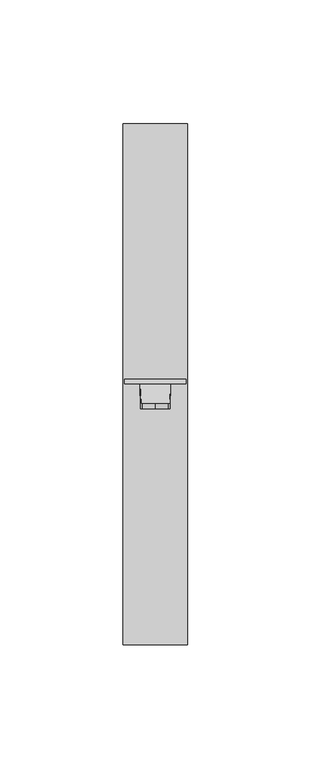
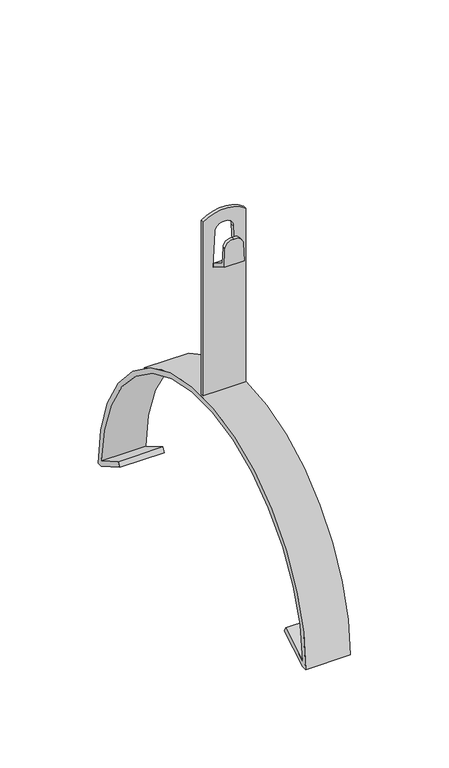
"""IFC4 building model written with IfcOpenShell, lengths in millimetres: proxy geometry, КНС_ЗажимКоньковыйРегулируемый_DKC : ND2205CU_Медь."""

from ifc_helpers import new_model, si_unit, point, frame, frame_2d, origin, place, context, project, spatial, polyline, circle_curve, trimmed, segment, composite_curve, outline, extrude, source, transform, mapped, element, save
from ifc_brep_helpers import plane_surface, cylinder_surface, advanced_brep


def security_devices_46811bfe(model_context):
    return source(origin(), model_context, "Body", "SolidModel", [
        extrude(outline(composite_curve([segment(trimmed(circle_curve(frame_2d((10.0, -102.5)), 105.5), [point((-95.5, -102.5))], [point((115.5, -102.5))], False, "CARTESIAN"), True, "CONTINUOUS"), segment(polyline([(115.5, -102.5), (112.5, -102.5), (93.5740989, -91.5731259), (95.0740989, -88.9750497), (112.4402748, -99.0014161)]), True, "CONTINUOUS"), segment(trimmed(circle_curve(frame_2d((10.0, -102.5)), 102.5), [point((112.4402748, -99.0014161))], [point((-92.4408565, -99.0184891))], True, "CARTESIAN"), True, "CONTINUOUS"), segment(polyline([(-92.4408565, -99.0184891), (-75.1203484, -89.0184891), (-73.6275959, -91.6040124), (-92.5, -102.5), (-95.5, -102.5)]), True, "CONTINUOUS")], self_intersect=False)), frame((-13.0, 0.0, 0.0), z_axis=(1.0, 0.0, 0.0), x_axis=(0.0, 1.0, 0.0)), (0.0, 0.0, 1.0), 26.0),
        advanced_brep(
        [(5.3645288, 0.0, 97.6660817), (0.0, 0.0, 102.1674559), (-5.3645288, 0.0, 97.6660817), (-5.9353846, 0.0, 86.7735027), (5.9353846, 0.0, 86.7735027), (6.2379611, 10.0, 81.0), (-6.2379611, 10.0, 81.0), (-6.1169305, 10.0, 83.3094011), (6.1169305, 10.0, 83.3094011), (-5.3645288, 2.0, 97.6660817), (-5.8748694, 2.0, 87.9282032), (5.8748694, 2.0, 87.9282032), (5.3645288, 2.0, 97.6660817), (0.0, 2.0, 102.1674559)],
        [
            (0, 1, circle_curve(frame((0.5834648, 0.0, 97.4155168), z_axis=(0.0, -1.0, 0.0), x_axis=(1.0, 0.0, 0.0)), 4.7876253)),
            (1, 2, circle_curve(frame((-0.5834648, 0.0, 97.4155168), z_axis=(0.0, -1.0, 0.0), x_axis=(1.0, 0.0, 0.0)), 4.7876253)),
            (2, 3),
            (3, 4),
            (4, 0),
            (5, 6),
            (6, 7),
            (7, 8),
            (8, 5),
            (2, 9),
            (9, 10),
            (10, 7),
            (6, 3),
            (4, 5),
            (8, 11),
            (11, 12),
            (12, 0),
            (12, 13, circle_curve(frame((0.5834648, 2.0, 97.4155168), z_axis=(0.0, -1.0, 0.0), x_axis=(1.0, 0.0, 0.0)), 4.7876253)),
            (13, 1),
            (13, 9, circle_curve(frame((-0.5834648, 2.0, 97.4155168), z_axis=(0.0, -1.0, 0.0), x_axis=(1.0, 0.0, 0.0)), 4.7876253)),
            (10, 11),
        ],
        [
            plane_surface(frame((-6.2379611, 0.0, 81.0), z_axis=(0.0, -1.0, 0.0), x_axis=(-0.05233595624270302, 0.0, -0.9986295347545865))),
            plane_surface(frame((-6.2379611, 10.0, 81.0), z_axis=(0.0, 1.0, 0.0), x_axis=(0.05233595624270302, 0.0, 0.9986295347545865))),
            plane_surface(frame((-5.3645288, 0.0, 97.6660817), z_axis=(-0.9986295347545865, 0.0, 0.05233595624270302), x_axis=(0.0, 1.0, 0.0))),
            plane_surface(frame((6.2379611, 0.0, 81.0), z_axis=(0.9986295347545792, 0.0, 0.052335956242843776), x_axis=(0.0, 1.0, 0.0))),
            cylinder_surface(frame((0.5834648, 10.0, 97.4155168), z_axis=(0.0, -1.0, 0.0), x_axis=(1.0, 0.0, 0.0)), 4.7876253),
            cylinder_surface(frame((-0.5834648, 10.0, 97.4155168), z_axis=(0.0, -1.0, 0.0), x_axis=(1.0, 0.0, 0.0)), 4.7876253),
            plane_surface(frame((12.5, 10.0, 81.0), z_axis=(0.0, -0.5000000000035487, -0.8660254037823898), x_axis=(-1.0, 0.0, 0.0))),
            plane_surface(frame((12.5, 2.0, 87.9282032), z_axis=(0.0, 0.49999999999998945, 0.8660254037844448), x_axis=(-1.0, 0.0, 0.0))),
            plane_surface(frame((12.5, 2.0, 112.9372685), z_axis=(0.0, 1.0, 0.0), x_axis=(-1.0, 0.0, 0.0))),
        ],
        [
            (0, [[1, 2, 3, 4, 5]]),
            (1, [[6, 7, 8, 9]]),
            (2, [[-3, 10, 11, 12, -7, 13]]),
            (3, [[-5, 14, -9, 15, 16, 17]]),
            (4, [[-1, -17, 18, 19]]),
            (5, [[-2, -19, 20, -10]]),
            (6, [[-4, -13, -6, -14]]),
            (7, [[21, -15, -8, -12]]),
            (8, [[-21, -11, -20, -18, -16]]),
        ],
    ),
        extrude(outline(composite_curve([segment(polyline([(110.874537, -12.5), (0.0, -12.5), (0.0, 12.5), (110.874537, 12.5)]), True, "CONTINUOUS"), segment(trimmed(circle_curve(frame_2d((94.0, 0.0)), 21.0), [point((110.874537, 12.5))], [point((110.874537, -12.5))], False, "CARTESIAN"), True, "CONTINUOUS")], self_intersect=False), holes=[composite_curve([segment(trimmed(circle_curve(frame_2d((102.4155168, -0.5834648)), 4.7876253), [point((102.6660817, -5.3645288))], [point((107.1674559, 0.0))], True, "CARTESIAN"), True, "CONTINUOUS"), segment(trimmed(circle_curve(frame_2d((102.4155168, 0.5834648)), 4.7876253), [point((107.1674559, 0.0))], [point((102.6660817, 5.3645288))], True, "CARTESIAN"), True, "CONTINUOUS"), segment(polyline([(102.6660817, 5.3645288), (81.0, 6.5), (81.0, -6.5), (102.6660817, -5.3645288)]), True, "CONTINUOUS")], self_intersect=False)]), frame((0.0, 10.0, 0.0), z_axis=(0.0, 1.0, 0.0), x_axis=(0.0, 0.0, 1.0)), (0.0, 0.0, 1.0), 2.0),
    ])


if __name__ == "__main__":
    model = new_model("IFC4")
    model_context = context("Model", 3, world=origin())
    ifc_project = project(units=[si_unit("LENGTHUNIT", "METRE", prefix="MILLI")], contexts=[model_context])
    site = spatial("IfcSite", under=ifc_project)
    building = spatial("IfcBuilding", under=site)
    placement = place(None, origin())
    security_devices_shape = security_devices_46811bfe(model_context)
    element("IfcBuildingElementProxy", 1, Name="КНС_ЗажимКоньковыйРегулируемый_DKC : ND2205CU_Медь", ObjectType="КНС_ЗажимКоньковыйРегулируемый_DKC : ND2205CU_Медь", at=placement, inside=building, context=model_context, shape_type="MappedRepresentation", body=[
        mapped(security_devices_shape, transform((0.0, 0.0, 0.0), x_axis=(1.0, 0.0, 0.0), y_axis=(0.0, 1.0, 0.0), z_axis=(0.0, 0.0, 1.0))),
    ])
    save(model, "model.ifc")
